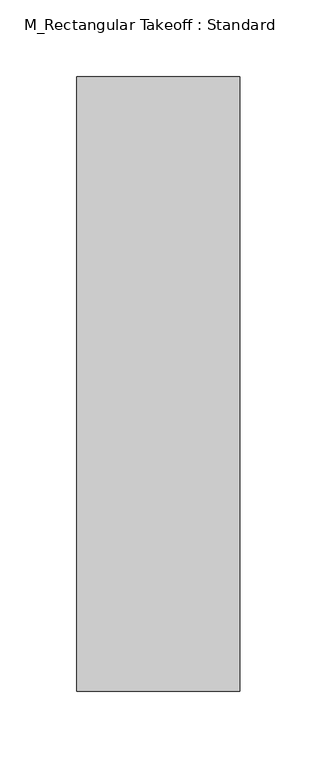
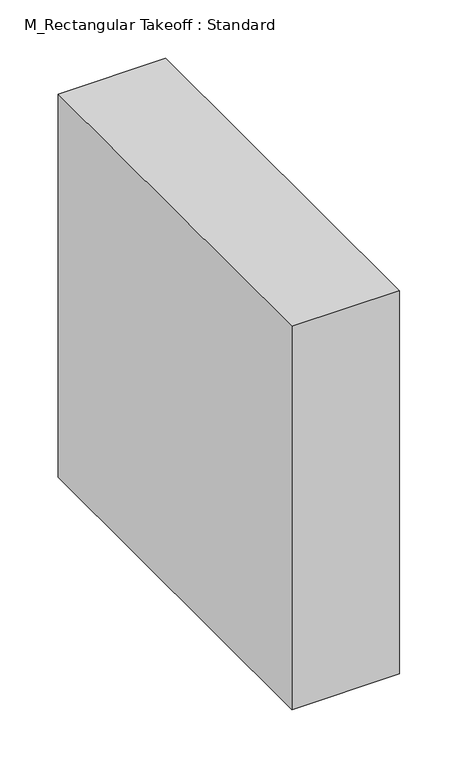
"""IFC4 building model written with IfcOpenShell, lengths in millimetres: duct fitting geometry, M_Rectangular Takeoff : Standard."""

from ifc_helpers import new_model, si_unit, frame, origin, place, context, project, spatial, polyline, outline, extrude, source, transform, mapped, element, save


def m_rectangular_takeoff_standard_d855f569(model_context):
    return source(origin(), model_context, "Body", "SweptSolid", [
        extrude(outline(polyline([(-6.096, -200.0), (-6.096, 200.0), (100.0, 200.0), (100.0, -200.0), (-6.096, -200.0)])), frame((0.0, 0.0, -200.0), z_axis=(0.0, 0.0, 1.0), x_axis=(1.0, 0.0, 0.0)), (0.0, 0.0, 1.0), 400.0),
        extrude(outline(polyline([(-6.096, -200.0), (-6.096, 200.0), (100.0, 200.0), (100.0, -200.0), (-6.096, -200.0)])), frame((0.0, 0.0, -200.0), z_axis=(0.0, 0.0, 1.0), x_axis=(1.0, 0.0, 0.0)), (0.0, 0.0, 1.0), 400.0),
        extrude(outline(polyline([(-6.096, -200.0), (-6.096, 200.0), (100.0, 200.0), (100.0, -200.0), (-6.096, -200.0)])), frame((0.0, 0.0, -200.0), z_axis=(0.0, 0.0, 1.0), x_axis=(1.0, 0.0, 0.0)), (0.0, 0.0, 1.0), 400.0),
    ])


if __name__ == "__main__":
    model = new_model("IFC4")
    model_context = context("Model", 3, world=origin())
    ifc_project = project(units=[si_unit("LENGTHUNIT", "METRE", prefix="MILLI")], contexts=[model_context])
    site = spatial("IfcSite", under=ifc_project)
    building = spatial("IfcBuilding", under=site)
    placement = place(None, origin())
    m_rectangular_takeoff_standard_shape = m_rectangular_takeoff_standard_d855f569(model_context)
    element("IfcDuctFitting", 1, ObjectType="M_Rectangular Takeoff : Standard", at=placement, inside=building, context=model_context, shape_type="MappedRepresentation", body=[
        mapped(m_rectangular_takeoff_standard_shape, transform((0.0, 0.0, 0.0), x_axis=(1.0, 0.0, 0.0), y_axis=(0.0, 1.0, 0.0), z_axis=(0.0, 0.0, 1.0))),
    ])
    save(model, "model.ifc")
